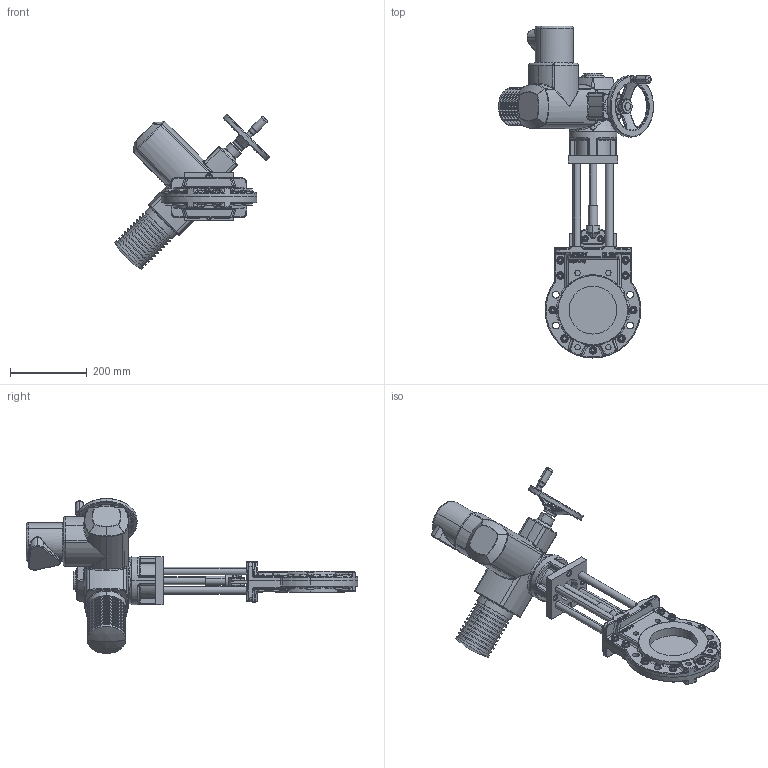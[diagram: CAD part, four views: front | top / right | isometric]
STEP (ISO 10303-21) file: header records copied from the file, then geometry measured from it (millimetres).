
FILE_DESCRIPTION (( 'STEP AP214' ), '1' );
FILE_NAME ('MGE DN 0125 PN10_16 (SA 07.6).STEP', '2015-09-23T08:45:42', ( 'admin' ), ( 'Hewlett-Packard Company' ), 'SwSTEP 2.0', 'SolidWorks 2013', '' );
FILE_SCHEMA (( 'AUTOMOTIVE_DESIGN' ));
Length unit declared in the file: millimetre
Products named in the file (1): MGE DN 0125 PN10_16 (SA 07.6)
Bounding box: 405.06 x 866.5 x 405.06 mm (x, y, z)
Volume: 10674167.8 mm3; surface area: 836338.5 mm2
Topology: 53 solids, 63 shells, 2838 faces, 6709 edges, 3938 vertices
Faces by surface type: plane 884, cylinder 696, bspline 494, cone 447, torus 287, sphere 30
Entity records: 134946 total; most frequent: CARTESIAN_POINT 41675, ORIENTED_EDGE 13046, DIRECTION 12511, EDGE_CURVE 6523, AXIS2_PLACEMENT_3D 5046, VERTEX_POINT 3938, EDGE_LOOP 3085, UNCERTAINTY_MEASURE_WITH_UNIT 2893
